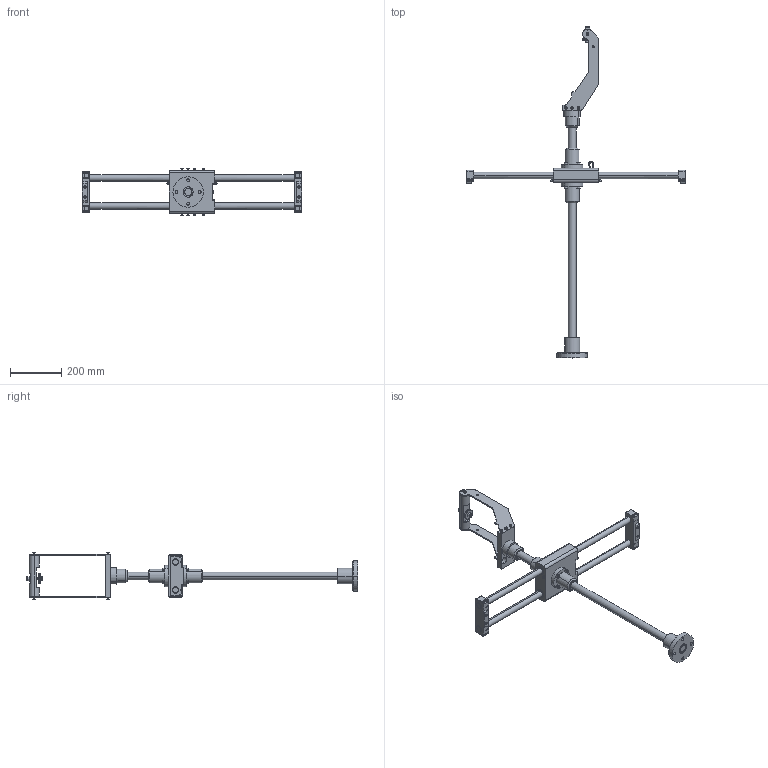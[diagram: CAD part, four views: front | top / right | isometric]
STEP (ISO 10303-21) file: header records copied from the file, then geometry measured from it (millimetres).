
FILE_DESCRIPTION((''),'2;1');
FILE_NAME('6158116610_DIM','2023-02-13T09:47:17',('S00000450'),(''),'CREO PARAMETRIC BY PTC INC, 2022162','CREO PARAMETRIC BY PTC INC, 2022162','');
FILE_SCHEMA(('AP242_MANAGED_MODEL_BASED_3D_ENGINEERING_MIM_LF { 1 0 10303 442 1 1 4 }'));
Length unit declared in the file: millimetre
Products named in the file (1): 6158116610_DIM
Bounding box: 860 x 1301.5 x 182 mm (x, y, z)
Volume: 4698059.6 mm3; surface area: 557956.6 mm2
Topology: 2 solids, 2 shells, 1086 faces, 2664 edges, 1621 vertices
Faces by surface type: plane 544, cylinder 306, cone 120, torus 112, bspline 4
Entity records: 35631 total; most frequent: CARTESIAN_POINT 6423, DIRECTION 5860, ORIENTED_EDGE 5204, EDGE_CURVE 2602, AXIS2_PLACEMENT_3D 2234, VERTEX_POINT 1621, VECTOR 1392, LINE 1392
